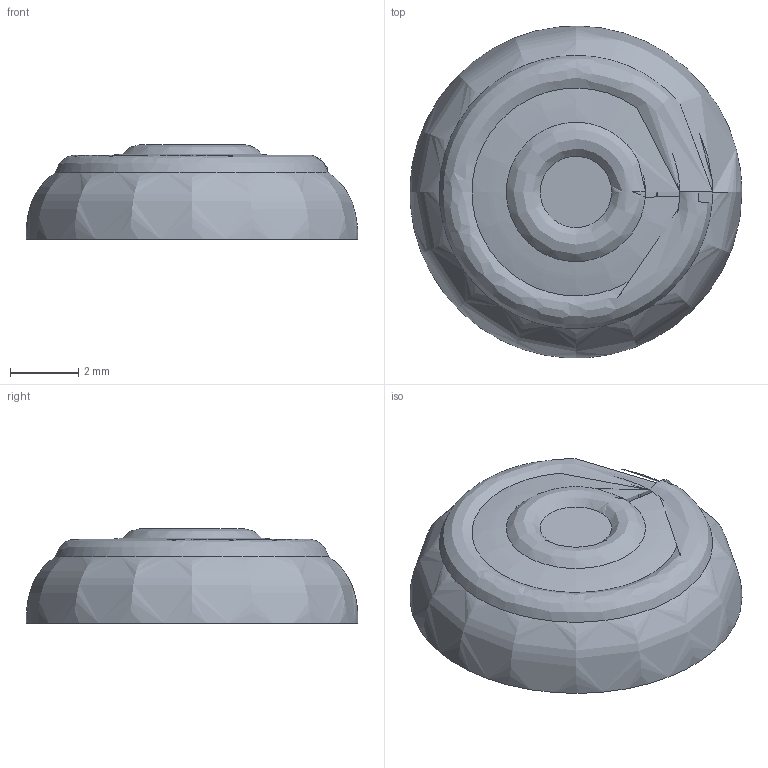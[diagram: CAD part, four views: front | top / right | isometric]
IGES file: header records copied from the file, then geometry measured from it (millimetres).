
Global section: file name: Sub_Rubber; native system: unknown; preprocessor: unknown; author: unknown; organization: unknown; date: 20240903.233551; units: millimetre
Bounding box: 9.7 x 9.69 x 2.75 mm (x, y, z)
Volume: 113.6 mm3; surface area: 258.5 mm2
Topology: 1 solids, 1 shells, 50 faces, 144 edges, 84 vertices
Faces by surface type: bspline 50
